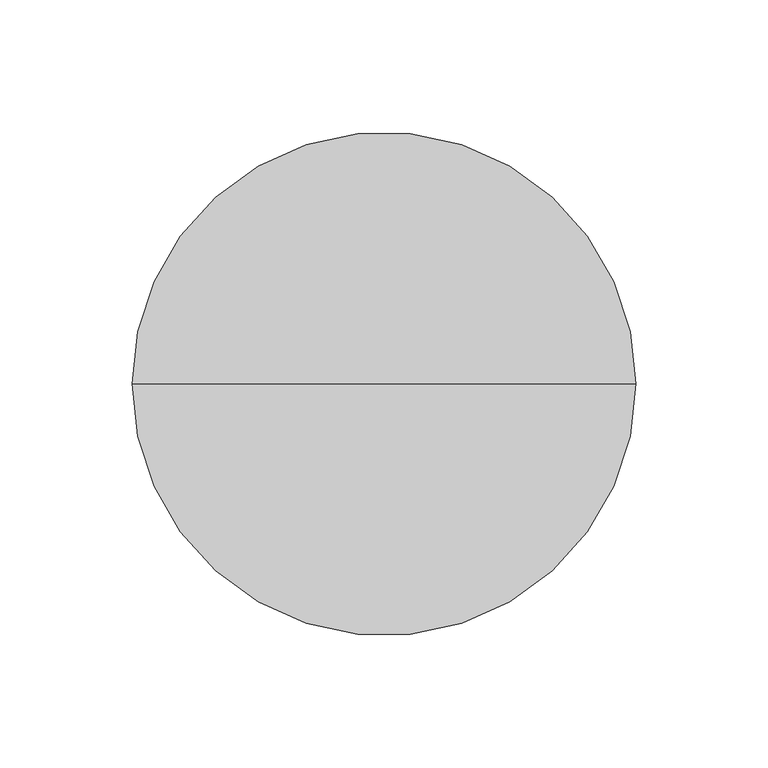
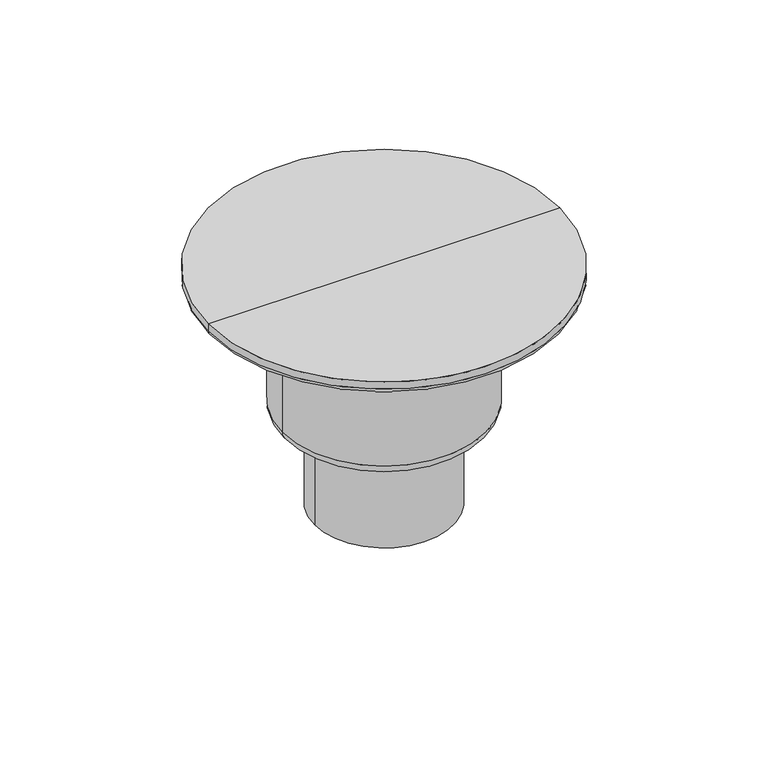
"""IFC4 building model written with IfcOpenShell, lengths in millimetres: flow terminal geometry."""

from ifc_helpers import new_model, si_unit, point, frame, origin, origin_2d, place, context, project, spatial, circle_curve, ellipse_curve, trimmed, segment, composite_curve, outline, extrude, source, transform, mapped, element, save
from ifc_brep_helpers import plane_surface, cylinder_surface, revolved_surface, advanced_brep


def flow_terminal_f97ccfa4(model_context):
    return source(origin(), model_context, "Body", "SolidModel", [
        advanced_brep(
        [(-55.0, 0.0, -146.0), (55.0, 0.0, -146.0), (49.0, 0.0, -152.0), (-49.0, 0.0, -152.0), (-55.0, 0.0, -94.0), (55.0, 0.0, -94.0), (-58.0, 0.0, -94.0), (58.0, 0.0, -94.0), (-95.0, 0.0, -70.0), (95.0, 0.0, -70.0), (95.0, 0.0, -74.0), (-95.0, 0.0, -74.0), (0.0, 0.0, -70.0), (0.0, 0.0, -152.0), (-58.0, 0.0, -77.0), (58.0, 0.0, -77.0), (-92.0, 0.0, -77.0), (92.0, 0.0, -77.0)],
        [
            (0, 1, circle_curve(frame((0.0, 0.0, -146.0), z_axis=(0.0, 0.0, -1.0), x_axis=(1.0, 0.0, 0.0)), 55.0)),
            (1, 2, circle_curve(frame((49.0, 0.0, -146.0), z_axis=(0.0, 1.0, 0.0), x_axis=(1.0, 0.0, 0.0)), 6.0)),
            (2, 3, circle_curve(frame((0.0, 0.0, -152.0), z_axis=(0.0, 0.0, 1.0), x_axis=(1.0, 0.0, 0.0)), 49.0)),
            (3, 0, circle_curve(frame((-49.0, 0.0, -146.0), z_axis=(0.0, 1.0, 0.0), x_axis=(-1.0, 0.0, 0.0)), 6.0)),
            (1, 0, circle_curve(frame((0.0, 0.0, -146.0), z_axis=(0.0, 0.0, -1.0), x_axis=(1.0, 0.0, 0.0)), 55.0)),
            (3, 2, circle_curve(frame((0.0, 0.0, -152.0), z_axis=(0.0, 0.0, 1.0), x_axis=(1.0, 0.0, 0.0)), 49.0)),
            (4, 5, circle_curve(frame((0.0, 0.0, -94.0), z_axis=(0.0, 0.0, -1.0), x_axis=(1.0, 0.0, 0.0)), 55.0)),
            (5, 1),
            (0, 4),
            (5, 4, circle_curve(frame((0.0, 0.0, -94.0), z_axis=(0.0, 0.0, -1.0), x_axis=(1.0, 0.0, 0.0)), 55.0)),
            (6, 7, circle_curve(frame((0.0, 0.0, -94.0), z_axis=(0.0, 0.0, -1.0), x_axis=(1.0, 0.0, 0.0)), 58.0)),
            (7, 5),
            (4, 6),
            (7, 6, circle_curve(frame((0.0, 0.0, -94.0), z_axis=(0.0, 0.0, -1.0), x_axis=(1.0, 0.0, 0.0)), 58.0)),
            (8, 9, circle_curve(frame((0.0, 0.0, -70.0), z_axis=(0.0, 0.0, -1.0), x_axis=(1.0, 0.0, 0.0)), 95.0)),
            (9, 10),
            (10, 11, circle_curve(frame((0.0, 0.0, -74.0), z_axis=(0.0, 0.0, 1.0), x_axis=(1.0, 0.0, 0.0)), 95.0)),
            (11, 8),
            (9, 8, circle_curve(frame((0.0, 0.0, -70.0), z_axis=(0.0, 0.0, -1.0), x_axis=(1.0, 0.0, 0.0)), 95.0)),
            (11, 10, circle_curve(frame((0.0, 0.0, -74.0), z_axis=(0.0, 0.0, 1.0), x_axis=(1.0, 0.0, 0.0)), 95.0)),
            (12, 9),
            (8, 12),
            (2, 13),
            (13, 3),
            (14, 15, circle_curve(frame((0.0, 0.0, -77.0), z_axis=(0.0, 0.0, -1.0), x_axis=(1.0, 0.0, 0.0)), 58.0)),
            (15, 7),
            (6, 14),
            (15, 14, circle_curve(frame((0.0, 0.0, -77.0), z_axis=(0.0, 0.0, -1.0), x_axis=(1.0, 0.0, 0.0)), 58.0)),
            (16, 17, circle_curve(frame((0.0, 0.0, -77.0), z_axis=(0.0, 0.0, -1.0), x_axis=(1.0, 0.0, 0.0)), 92.0)),
            (17, 15),
            (14, 16),
            (17, 16, circle_curve(frame((0.0, 0.0, -77.0), z_axis=(0.0, 0.0, -1.0), x_axis=(1.0, 0.0, 0.0)), 92.0)),
            (10, 17, circle_curve(frame((92.0, 0.0, -74.0), z_axis=(0.0, 1.0, 0.0), x_axis=(1.0, 0.0, 0.0)), 3.0)),
            (16, 11, circle_curve(frame((-92.0, 0.0, -74.0), z_axis=(0.0, 1.0, 0.0), x_axis=(-1.0, 0.0, 0.0)), 3.0)),
        ],
        [
            revolved_surface(trimmed(ellipse_curve(frame((49.0, 0.0, -146.0), z_axis=(0.0, -1.0, 0.0), x_axis=(1.0, 0.0, 0.0)), 6.0, 6.0), [point((49.0, 0.0, -152.0))], [point((55.0, 0.0, -146.0))], True, "CARTESIAN"), (0.0, 0.0, 2144.3150031), (0.0, 0.0, 1.0)),
            cylinder_surface(frame((0.0, 0.0, 2144.3150031), z_axis=(0.0, 0.0, 1.0), x_axis=(1.0, 0.0, 0.0)), 55.0),
            plane_surface(frame((0.0, 0.0, -94.0), z_axis=(0.0, 0.0, -1.0), x_axis=(1.0, 0.0, 0.0))),
            cylinder_surface(frame((0.0, 0.0, 2144.3150031), z_axis=(0.0, 0.0, 1.0), x_axis=(1.0, 0.0, 0.0)), 95.0),
            plane_surface(frame((0.0, 0.0, -70.0), z_axis=(0.0, 0.0, 1.0), x_axis=(1.0, 0.0, 0.0))),
            plane_surface(frame((0.0, 0.0, -152.0), z_axis=(0.0, 0.0, -1.0), x_axis=(1.0, 0.0, 0.0))),
            cylinder_surface(frame((0.0, 0.0, 2144.3150031), z_axis=(0.0, 0.0, 1.0), x_axis=(1.0, 0.0, 0.0)), 58.0),
            plane_surface(frame((0.0, 0.0, -77.0), z_axis=(0.0, 0.0, -1.0), x_axis=(1.0, 0.0, 0.0))),
            revolved_surface(trimmed(ellipse_curve(frame((92.0, 0.0, -74.0), z_axis=(0.0, -1.0, 0.0), x_axis=(1.0, 0.0, 0.0)), 3.0, 3.0), [point((92.0, 0.0, -77.0))], [point((95.0, 0.0, -74.0))], True, "CARTESIAN"), (0.0, 0.0, 2144.3150031), (0.0, 0.0, 1.0)),
        ],
        [
            (0, [[1, 2, 3, 4]]),
            (0, [[5, -4, 6, -2]]),
            (1, [[7, 8, -1, 9]]),
            (1, [[10, -9, -5, -8]]),
            (2, [[11, 12, -7, 13]]),
            (2, [[14, -13, -10, -12]]),
            (3, [[15, 16, 17, 18]]),
            (3, [[19, -18, 20, -16]]),
            (4, [[21, -15, 22]]),
            (4, [[-22, -19, -21]]),
            (5, [[-3, 23, 24]]),
            (5, [[-6, -24, -23]]),
            (6, [[25, 26, -11, 27]]),
            (6, [[28, -27, -14, -26]]),
            (7, [[29, 30, -25, 31]]),
            (7, [[32, -31, -28, -30]]),
            (8, [[-17, 33, -29, 34]]),
            (8, [[-20, -34, -32, -33]]),
        ],
    ),
        extrude(outline(composite_curve([segment(trimmed(circle_curve(origin_2d(), 25.0), [point((25.0, 0.0))], [point((-25.0, 0.0))], False, "CARTESIAN"), True, "CONTINUOUS"), segment(trimmed(circle_curve(origin_2d(), 25.0), [point((-25.0, 0.0))], [point((25.0, 0.0))], False, "CARTESIAN"), True, "CONTINUOUS")], self_intersect=False), holes=[composite_curve([segment(trimmed(circle_curve(origin_2d(), 22.0), [point((22.0, 0.0))], [point((-22.0, 0.0))], True, "CARTESIAN"), True, "CONTINUOUS"), segment(trimmed(circle_curve(origin_2d(), 22.0), [point((-22.0, 0.0))], [point((22.0, 0.0))], True, "CARTESIAN"), True, "CONTINUOUS")], self_intersect=False)]), frame((0.0, 0.0, -205.0), z_axis=(0.0, 0.0, 1.0), x_axis=(1.0, 0.0, 0.0)), (0.0, 0.0, 1.0), 53.0),
        extrude(outline(composite_curve([segment(trimmed(circle_curve(origin_2d(), 37.5), [point((37.5, 0.0))], [point((-37.5, 0.0))], False, "CARTESIAN"), True, "CONTINUOUS"), segment(trimmed(circle_curve(origin_2d(), 37.5), [point((-37.5, 0.0))], [point((37.5, 0.0))], False, "CARTESIAN"), True, "CONTINUOUS")], self_intersect=False), holes=[composite_curve([segment(trimmed(circle_curve(origin_2d(), 34.5), [point((34.5, 0.0))], [point((-34.5, 0.0))], True, "CARTESIAN"), True, "CONTINUOUS"), segment(trimmed(circle_curve(origin_2d(), 34.5), [point((-34.5, 0.0))], [point((34.5, 0.0))], True, "CARTESIAN"), True, "CONTINUOUS")], self_intersect=False)]), frame((0.0, 0.0, -205.0), z_axis=(0.0, 0.0, 1.0), x_axis=(1.0, 0.0, 0.0)), (0.0, 0.0, 1.0), 53.0),
    ])


if __name__ == "__main__":
    model = new_model("IFC4")
    model_context = context("Model", 3, world=origin())
    ifc_project = project(units=[si_unit("LENGTHUNIT", "METRE", prefix="MILLI")], contexts=[model_context])
    site = spatial("IfcSite", under=ifc_project)
    building = spatial("IfcBuilding", under=site)
    placement = place(None, origin())
    flow_terminal_shape = flow_terminal_f97ccfa4(model_context)
    element("IfcFlowTerminal", 1, at=placement, inside=building, context=model_context, shape_type="MappedRepresentation", body=[
        mapped(flow_terminal_shape, transform((0.0, 0.0, 0.0), x_axis=(1.0, 0.0, 0.0), y_axis=(0.0, 1.0, 0.0), z_axis=(0.0, 0.0, 1.0))),
    ])
    save(model, "model.ifc")
